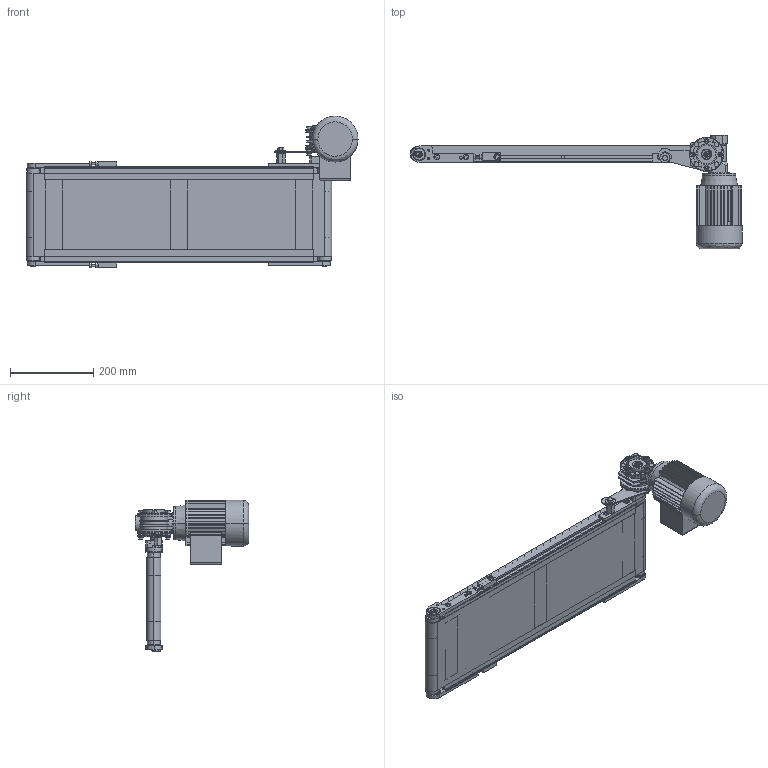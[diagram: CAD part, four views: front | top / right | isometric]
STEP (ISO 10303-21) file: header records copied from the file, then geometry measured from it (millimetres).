
FILE_DESCRIPTION (( 'STEP AP203' ), '1' );
FILE_NAME ('NASTRO_RETTILINEO_TAPPETO.step', '2026-04-22T12:29:43', ( 'Utente Windows' ), ( '' ), 'SwSTEP 2.0', 'SolidWorks 2024', '' );
FILE_SCHEMA (( 'CONFIG_CONTROL_DESIGN' ));
Length unit declared in the file: millimetre
Products named in the file (31): 084.301.000 VITI ALUSIC_084.301.002; CUSCINETTI CB_CB 202; LAMIERA_STANDARD; 084.801.027 sx; RULLO_30_RINVIO; BLOCCO_TRAINO_30_STANDARD_SX_MOTORE A SINISTRA; BLOCCO_TRAINO_30_STANDARD_30_DX_MOTORE A SINISTRA; 084.801.027 dx; 084.302.000 DADI ALUSIC 13x13-1_084.302.004; 084.301.000 VITI ALUSIC_084.301.003; RONDELLE UNI 6592_6.4x12.5 UNI 6592; 084.802.008; 084.303.001; 084.801.025; VITE_RONDELLA_M8X20; 084.301.000 VITI ALUSIC_084.301.011; RULLO_30_TRAINO_30_DX; TAPPETO_STANDARD; RONDELLE FASCIA LARGA UNI 6593_8.4x24 UNI 6593; BLOCCO_RINVIO_30_STANDARD_DX; BLOCCO_RINVIO_30_STANDARD_SX; 084.802.027; GRANI A PUNTA PIATTA UNI 5923_M8x20 UNI 5923; 084.807.005; 084.802.062; CH03P_DX; NASTRO_RETTILINEO_TAPPETO; VITI TE UNI 5739_M8x16 UNI 5739; TELAIO_30_STANDARD_Default<A macchina>; 62012RSBOMB_62012RSBOMB; VITI TE UNI 5739_M6x10 UNI 5739
Assembly tree (62 placements, depth 3):
  NASTRO_RETTILINEO_TAPPETO
    TAPPETO_STANDARD
    TELAIO_30_STANDARD_Default<A macchina>
    LAMIERA_STANDARD
    RULLO_30_TRAINO_30_DX
    BLOCCO_TRAINO_30_STANDARD_30_DX_MOTORE A SINISTRA
      084.802.027
      084.807.005
      084.801.027 dx
      084.801.025
      CUSCINETTI CB_CB 202
      084.301.000 VITI ALUSIC_084.301.002  x2
      084.302.000 DADI ALUSIC 13x13-1_084.302.004  x2
      084.301.000 VITI ALUSIC_084.301.011  x2
      VITI TE UNI 5739_M8x16 UNI 5739
      RONDELLE FASCIA LARGA UNI 6593_8.4x24 UNI 6593
      GRANI A PUNTA PIATTA UNI 5923_M8x20 UNI 5923
      RONDELLE UNI 6592_6.4x12.5 UNI 6592  x4
      VITI TE UNI 5739_M6x10 UNI 5739  x4
      084.802.062
    BLOCCO_TRAINO_30_STANDARD_SX_MOTORE A SINISTRA
      084.801.027 sx
      62012RSBOMB_62012RSBOMB
      084.302.000 DADI ALUSIC 13x13-1_084.302.004  x2
      084.301.000 VITI ALUSIC_084.301.002  x2
    RULLO_30_RINVIO
    BLOCCO_RINVIO_30_STANDARD_SX
      084.802.008
      084.801.027 sx
      62012RSBOMB_62012RSBOMB
      084.302.000 DADI ALUSIC 13x13-1_084.302.004  x3
      084.301.000 VITI ALUSIC_084.301.002  x2
      084.301.000 VITI ALUSIC_084.301.003
    BLOCCO_RINVIO_30_STANDARD_DX
      084.802.008
      084.801.027 dx
      62012RSBOMB_62012RSBOMB
      084.302.000 DADI ALUSIC 13x13-1_084.302.004  x3
      084.301.000 VITI ALUSIC_084.301.002  x2
      084.301.000 VITI ALUSIC_084.301.003
    VITE_RONDELLA_M8X20  x3
      084.303.001
      084.301.000 VITI ALUSIC_084.301.003
    CH03P_DX
Bounding box: 797 x 273 x 364 mm (x, y, z)
Volume: 4060405.7 mm3; surface area: 1778748.7 mm2
Topology: 67 solids, 69 shells, 2017 faces, 5096 edges, 3284 vertices
Faces by surface type: plane 1030, cylinder 665, cone 154, torus 98, bspline 50, sphere 20
Entity records: 44172 total; most frequent: CARTESIAN_POINT 7938, DIRECTION 7001, ORIENTED_EDGE 6496, EDGE_CURVE 3248, AXIS2_PLACEMENT_3D 2562, VERTEX_POINT 2089, VECTOR 1877, LINE 1877
